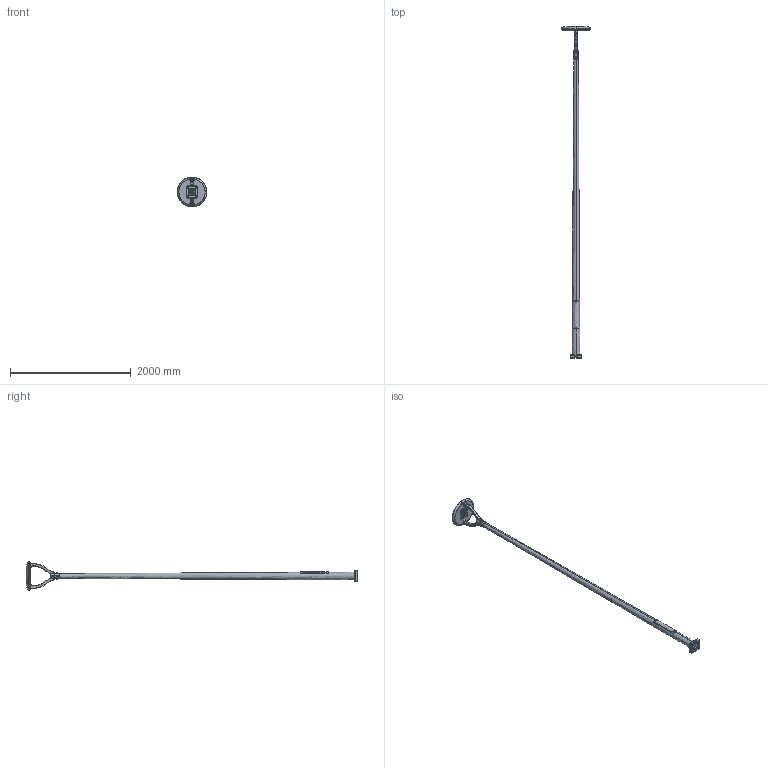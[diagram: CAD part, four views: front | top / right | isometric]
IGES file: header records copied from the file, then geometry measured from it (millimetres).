
Start section: SolidWorks IGES file using analytic representation for surfaces
Global section: file name: F:\F\2. ÀÐÕÈÂ ÄÅÊÎÐÀÒÈÂÍÛÕ ÎÏÎÐ\ÊÀÒÀËÎÃ ÀÊÑÈÔÎÐÌÀ\ORBA\orba-1-5(40D)-(Ê170-130-4õ14)-ö+ïî\ìîäåëè äëÿ ñêà÷èâàíèÿ\orba-1-5(40D)-(Ê170-130-4õ14)-ö+ïî.IGS; native system: SolidWorks 2020; preprocessor: SolidWorks 2020; author: Åêàòåðèíà; date: 210708.173514; units: millimetre
Bounding box: 489.89 x 5489.07 x 490 mm (x, y, z)
Surface area: 4226849 mm2 (no closed solid volume)
Topology: 0 solids, 0 shells, 1114 faces, 18347 edges, 18331 vertices
Faces by surface type: revolution 601, bspline 513
